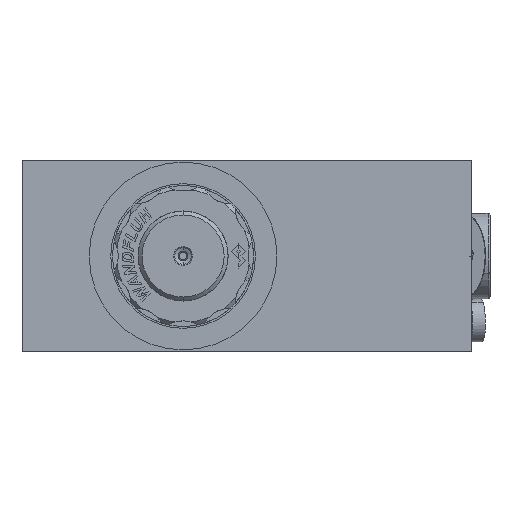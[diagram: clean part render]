
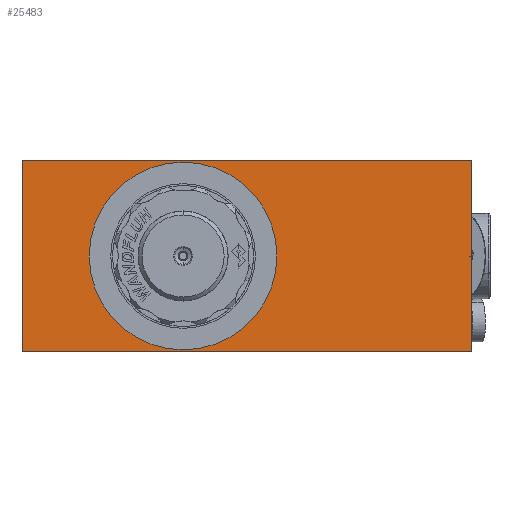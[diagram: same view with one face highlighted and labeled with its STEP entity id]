
A CAD part, left-side view. The second image highlights one B-rep face of the part: STEP entity #25483.
In plain terms, the highlighted planar face has unit normal (-1, 0, 0).
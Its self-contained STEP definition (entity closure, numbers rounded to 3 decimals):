
#14 = CARTESIAN_POINT ( 'NONE',  ( -49., 1.8, 0. ) ) ;
#1779 = DIRECTION ( 'NONE',  ( -1., 0., 0. ) ) ;
#2614 = CARTESIAN_POINT ( 'NONE',  ( -49., 16.3, 0. ) ) ;
#2615 = ORIENTED_EDGE ( 'NONE', *, *, #17423, .F. ) ;
#2974 = VERTEX_POINT ( 'NONE', #43576 ) ;
#3924 = CARTESIAN_POINT ( 'NONE',  ( -49., 57.5, -24.5 ) ) ;
#4602 = DIRECTION ( 'NONE',  ( 0., 0., 1. ) ) ;
#6193 = DIRECTION ( 'NONE',  ( 0., -1., 0. ) ) ;
#6365 = VECTOR ( 'NONE', #4602, 1000. ) ;
#10953 = CARTESIAN_POINT ( 'NONE',  ( -49., 30.8, 0. ) ) ;
#11167 = CIRCLE ( 'NONE', #18746, 14.5 ) ;
#11570 = AXIS2_PLACEMENT_3D ( 'NONE', #53923, #13529, #49472 ) ;
#13500 = CARTESIAN_POINT ( 'NONE',  ( -49., 57.5, 24.5 ) ) ;
#13529 = DIRECTION ( 'NONE',  ( 1., 0., 0. ) ) ;
#14629 = LINE ( 'NONE', #32902, #35439 ) ;
#14911 = DIRECTION ( 'NONE',  ( 0., -1., 0. ) ) ;
#17003 = DIRECTION ( 'NONE',  ( 0., -1., 0. ) ) ;
#17423 = EDGE_CURVE ( 'NONE', #31109, #26659, #58049, .T. ) ;
#17641 = DIRECTION ( 'NONE',  ( 0., 0., 1. ) ) ;
#18746 = AXIS2_PLACEMENT_3D ( 'NONE', #35856, #26422, #17003 ) ;
#20067 = VERTEX_POINT ( 'NONE', #10953 ) ;
#21971 = EDGE_CURVE ( 'NONE', #20067, #53383, #51645, .T. ) ;
#25483 = ADVANCED_FACE ( 'NONE', ( #44179, #58383 ), #39805, .F. ) ;
#25627 = EDGE_LOOP ( 'NONE', ( #50986, #34193 ) ) ;
#25641 = LINE ( 'NONE', #43332, #44560 ) ;
#26422 = DIRECTION ( 'NONE',  ( -1., 0., 0. ) ) ;
#26659 = VERTEX_POINT ( 'NONE', #58416 ) ;
#31109 = VERTEX_POINT ( 'NONE', #3924 ) ;
#32902 = CARTESIAN_POINT ( 'NONE',  ( -49., 57.5, 24.5 ) ) ;
#34143 = ORIENTED_EDGE ( 'NONE', *, *, #48660, .F. ) ;
#34161 = EDGE_CURVE ( 'NONE', #2974, #51559, #36757, .T. ) ;
#34193 = ORIENTED_EDGE ( 'NONE', *, *, #21971, .F. ) ;
#35439 = VECTOR ( 'NONE', #14911, 1000. ) ;
#35856 = CARTESIAN_POINT ( 'NONE',  ( -49., 16.3, 0. ) ) ;
#36757 = LINE ( 'NONE', #41484, #6365 ) ;
#39222 = DIRECTION ( 'NONE',  ( 0., -1., 0. ) ) ;
#39805 = PLANE ( 'NONE',  #11570 ) ;
#41484 = CARTESIAN_POINT ( 'NONE',  ( -49., -57.5, 24.5 ) ) ;
#43332 = CARTESIAN_POINT ( 'NONE',  ( -49., 57.5, -24.5 ) ) ;
#43576 = CARTESIAN_POINT ( 'NONE',  ( -49., -57.5, -24.5 ) ) ;
#44179 = FACE_BOUND ( 'NONE', #25627, .T. ) ;
#44560 = VECTOR ( 'NONE', #39222, 1000. ) ;
#44673 = CARTESIAN_POINT ( 'NONE',  ( -49., -57.5, 24.5 ) ) ;
#45816 = EDGE_CURVE ( 'NONE', #31109, #2974, #25641, .T. ) ;
#46929 = EDGE_LOOP ( 'NONE', ( #48359, #34143, #2615, #50585 ) ) ;
#48359 = ORIENTED_EDGE ( 'NONE', *, *, #34161, .T. ) ;
#48660 = EDGE_CURVE ( 'NONE', #26659, #51559, #14629, .T. ) ;
#49472 = DIRECTION ( 'NONE',  ( 0., 0., -1. ) ) ;
#50585 = ORIENTED_EDGE ( 'NONE', *, *, #45816, .T. ) ;
#50986 = ORIENTED_EDGE ( 'NONE', *, *, #51535, .F. ) ;
#51535 = EDGE_CURVE ( 'NONE', #53383, #20067, #11167, .T. ) ;
#51559 = VERTEX_POINT ( 'NONE', #44673 ) ;
#51645 = CIRCLE ( 'NONE', #52567, 14.5 ) ;
#52567 = AXIS2_PLACEMENT_3D ( 'NONE', #2614, #1779, #6193 ) ;
#53383 = VERTEX_POINT ( 'NONE', #14 ) ;
#53862 = VECTOR ( 'NONE', #17641, 1000. ) ;
#53923 = CARTESIAN_POINT ( 'NONE',  ( -49., 57.5, 24.5 ) ) ;
#58049 = LINE ( 'NONE', #13500, #53862 ) ;
#58383 = FACE_OUTER_BOUND ( 'NONE', #46929, .T. ) ;
#58416 = CARTESIAN_POINT ( 'NONE',  ( -49., 57.5, 24.5 ) ) ;
